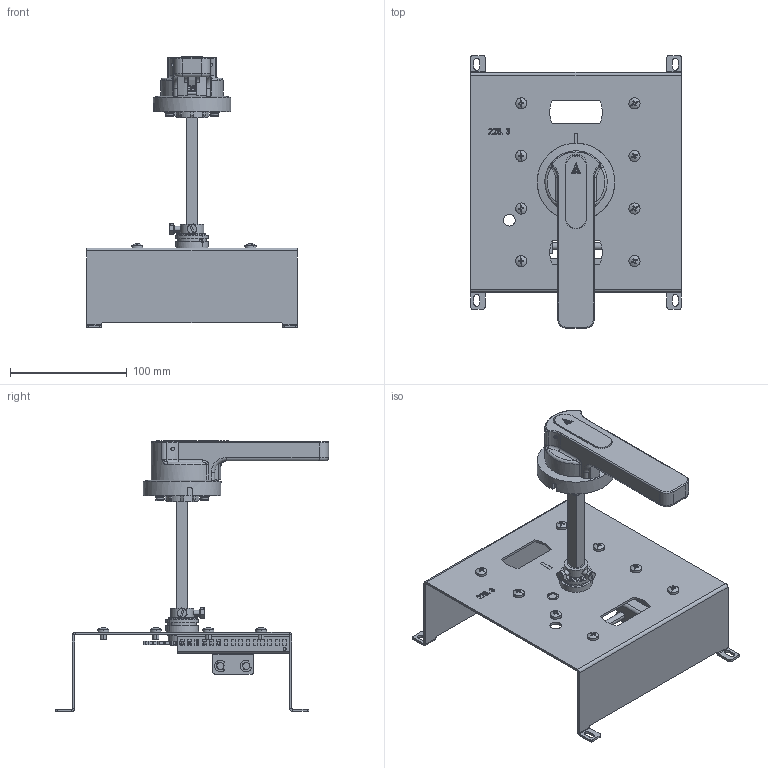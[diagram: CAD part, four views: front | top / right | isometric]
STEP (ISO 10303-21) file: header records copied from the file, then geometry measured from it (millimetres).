
FILE_DESCRIPTION(/* description */ (''),/* implementation_level */ '2;1');
FILE_NAME(/* name */ '_model1.stp',/* time_stamp */ '2025-09-24T10:08:57+08:00',/* author */ (''),/* organization */ (''),/* preprocessor_version */ 'ST-DEVELOPER v16',/* originating_system */ 'SIEMENS PLM Software NX 10.0',/* authorisation */ '');
FILE_SCHEMA (('AUTOMOTIVE_DESIGN { 1 0 10303 214 3 1 1 1 }'));
Products named in the file (1): midi514C04092fso
Bounding box: 180 x 233.85 x 231.9 mm (x, y, z)
Volume: 160774.7 mm3; surface area: 206236.6 mm2
Topology: 23 solids, 24 shells, 1708 faces, 4526 edges, 2851 vertices
Faces by surface type: plane 870, cylinder 472, bspline 262, cone 63, torus 25, sphere 16
Full cylindrical faces by diameter (mm): 2.7 x2, 3 x3, 3.5 x8, 3.8 x3, 4 x5, 4.18 x2, 4.4 x2, 4.542 x1, 8 x2, 23.5 x1, 66.5 x1
Entity records: 82527 total; most frequent: CARTESIAN_POINT 41958, ORIENTED_EDGE 8708, DIRECTION 7734, EDGE_CURVE 4354, VERTEX_POINT 2815, AXIS2_PLACEMENT_3D 2623, LINE 2488, VECTOR 2488
